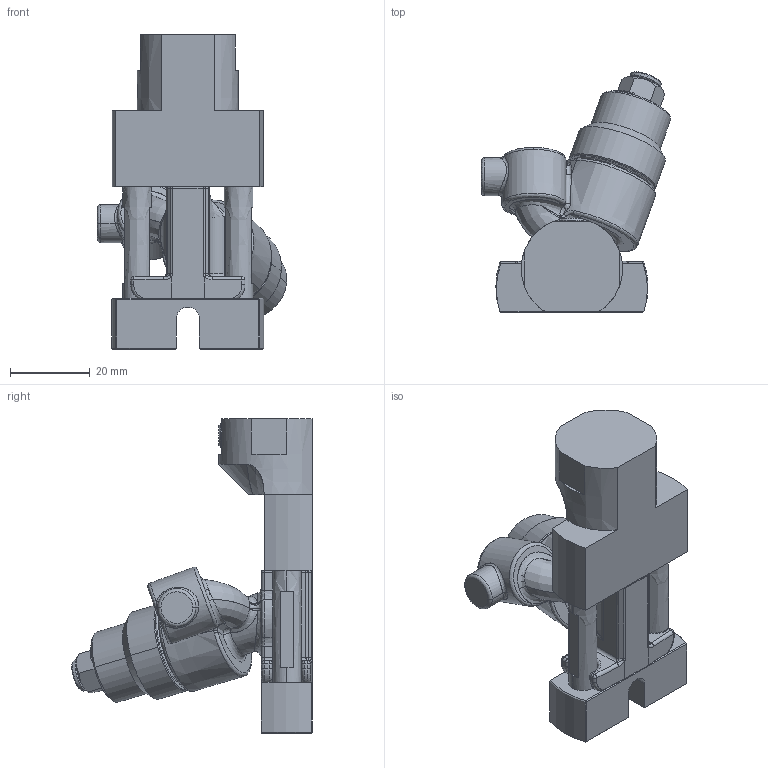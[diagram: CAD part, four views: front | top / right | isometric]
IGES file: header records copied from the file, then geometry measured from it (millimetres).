
Start section:  PTC IGES file: fxcc0001s-en-c.igs
Global section: file name: fxcc0001s-en-c.igs; native system: Creo Parametric by PTC Inc.; preprocessor: 2021072; author: qufmd1; organization: Unknown; date: 20220621.145932; units: inch
Bounding box: 47.4 x 60.21 x 78.74 mm (x, y, z)
Surface area: 17641 mm2 (no closed solid volume)
Topology: 0 solids, 0 shells, 296 faces, 1401 edges, 1401 vertices
Faces by surface type: revolution 150, bspline 144, extrusion 2
